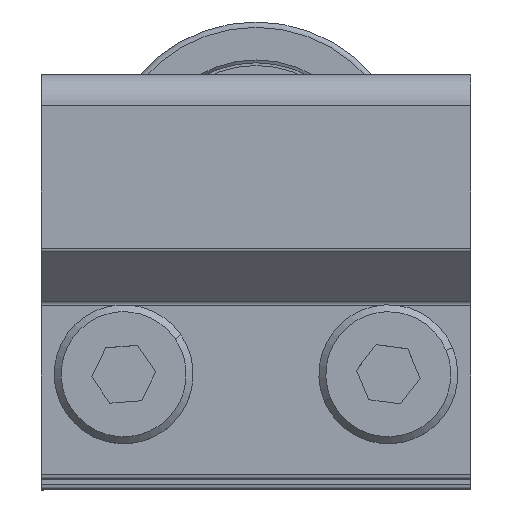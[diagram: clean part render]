
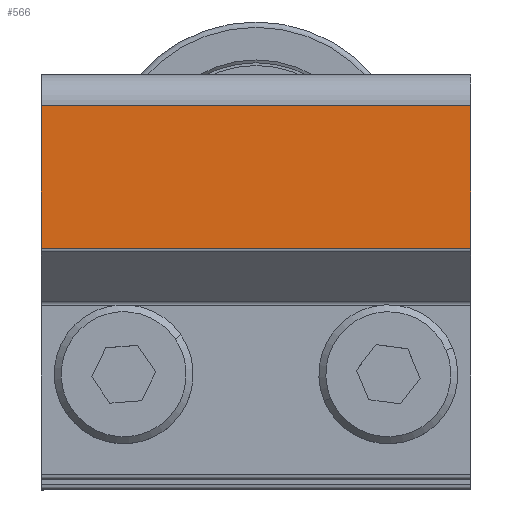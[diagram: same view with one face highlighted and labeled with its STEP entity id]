
A CAD part, top view. The second image highlights one B-rep face of the part: STEP entity #566.
In plain terms, the highlighted planar face has unit normal (0, 0, 1) as drawn and (1, 0, 0) by its records, which use the part's own axes.
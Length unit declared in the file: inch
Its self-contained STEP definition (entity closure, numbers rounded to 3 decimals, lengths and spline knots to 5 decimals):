
#66=DIRECTION('',(0.,0.,1.));
#67=VECTOR('',#66,1.216);
#68=CARTESIAN_POINT('',(0.375,0.35921,-0.608));
#69=LINE('',#68,#67);
#70=DIRECTION('',(0.,-1.,0.));
#71=VECTOR('',#70,0.40379);
#72=CARTESIAN_POINT('',(0.375,0.763,-0.608));
#73=LINE('',#72,#71);
#151=DIRECTION('',(0.,-1.,0.));
#152=VECTOR('',#151,0.40379);
#153=CARTESIAN_POINT('',(0.375,0.763,0.608));
#154=LINE('',#153,#152);
#155=DIRECTION('',(0.,0.,-1.));
#156=VECTOR('',#155,1.216);
#157=CARTESIAN_POINT('',(0.375,0.763,0.608));
#158=LINE('',#157,#156);
#348=CARTESIAN_POINT('',(0.375,0.763,-0.608));
#350=VERTEX_POINT('',#348);
#383=CARTESIAN_POINT('',(0.375,0.763,0.608));
#384=VERTEX_POINT('',#383);
#411=CARTESIAN_POINT('',(0.375,0.35921,-0.608));
#413=VERTEX_POINT('',#411);
#421=CARTESIAN_POINT('',(0.375,0.35921,0.608));
#422=VERTEX_POINT('',#421);
#554=CARTESIAN_POINT('',(0.375,0.763,0.608));
#555=DIRECTION('',(-1.,0.,0.));
#556=DIRECTION('',(0.,-1.,0.));
#557=AXIS2_PLACEMENT_3D('',#554,#555,#556);
#558=PLANE('',#557);
#559=ORIENTED_EDGE('',*,*,#470,.F.);
#561=ORIENTED_EDGE('',*,*,#560,.T.);
#562=ORIENTED_EDGE('',*,*,#511,.T.);
#563=ORIENTED_EDGE('',*,*,#501,.T.);
#564=EDGE_LOOP('',(#559,#561,#562,#563));
#565=FACE_OUTER_BOUND('',#564,.F.);
#470=EDGE_CURVE('',#384,#422,#154,.T.);
#501=EDGE_CURVE('',#413,#422,#69,.T.);
#511=EDGE_CURVE('',#350,#413,#73,.T.);
#560=EDGE_CURVE('',#384,#350,#158,.T.);
#566=ADVANCED_FACE('',(#565),#558,.F.);
